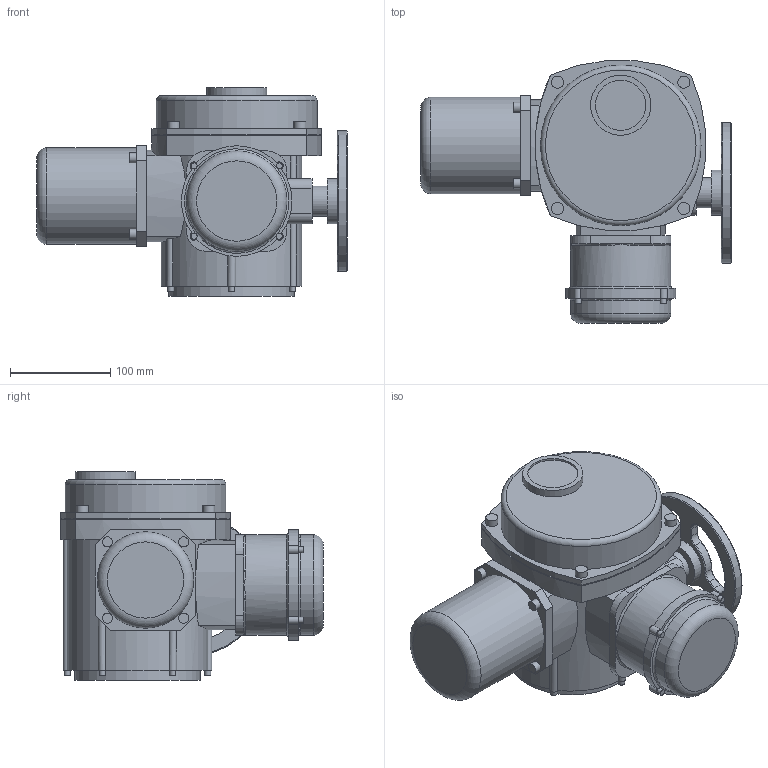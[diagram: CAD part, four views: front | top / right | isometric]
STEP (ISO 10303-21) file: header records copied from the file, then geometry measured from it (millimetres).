
FILE_DESCRIPTION(('STEP AP203'), '1');
FILE_NAME('楋樏襝鍱睯蜬蠈錪 QT.Z 030', '', ('UNSPECIFIED'), ('UNSPECIFIED'), 'ASCON STEP Converter 1.6', 'ASCON Math Kernel', '');
FILE_SCHEMA(('CONFIG_CONTROL_DESIGN'));
Length unit declared in the file: millimetre
Bounding box: 309 x 261.44 x 208 mm (x, y, z)
Volume: 5493425.3 mm3; surface area: 335809.7 mm2
Topology: 1 solids, 1 shells, 251 faces, 581 edges, 355 vertices
Faces by surface type: cylinder 114, plane 72, torus 41, cone 16, bspline 8
Full cylindrical faces by diameter (mm): 6 x10, 6.647 x4, 8.376 x4, 10 x4, 12 x4, 12.386 x1, 30 x1, 45 x1, 50 x1, 55 x1, 60 x1, 96 x1, 100 x2, 125 x1, 140 x1, 160 x1
Entity records: 10291 total; most frequent: CARTESIAN_POINT 2705, DIRECTION 1258, ORIENTED_EDGE 1004, AXIS2_PLACEMENT_3D 542, EDGE_CURVE 502, EDGE_LOOP 352, VERTEX_POINT 346, CIRCLE 298
